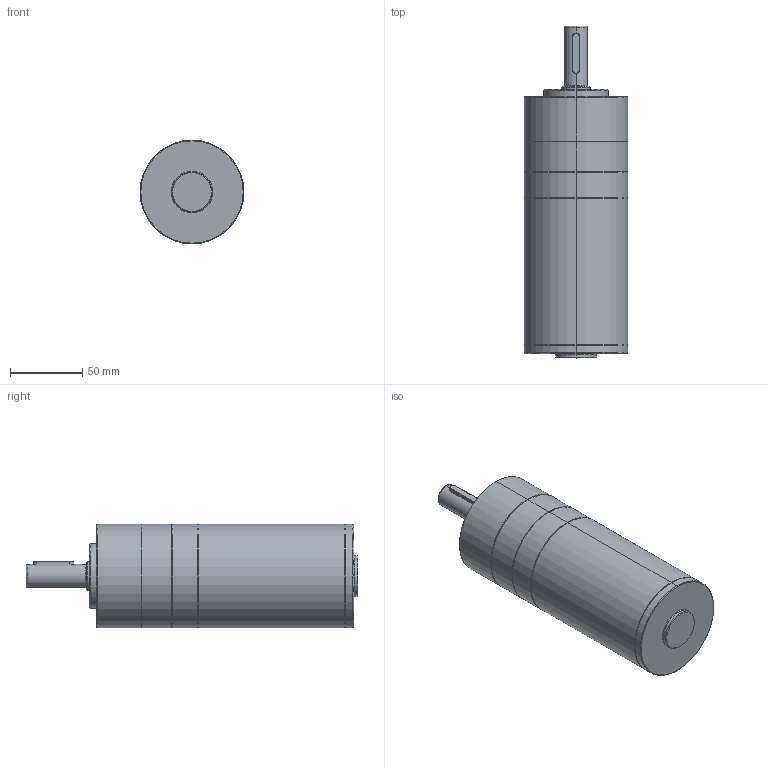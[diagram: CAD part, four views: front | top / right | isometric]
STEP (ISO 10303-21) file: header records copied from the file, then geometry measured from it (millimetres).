
FILE_DESCRIPTION (( 'STEP AP203' ), '1' );
FILE_NAME ('72BLD150W熬厒掀珨撰淕儂.STEP', '2021-07-16T04:52:00', ( '' ), ( '' ), 'SwSTEP 2.0', 'SolidWorks 2021', '' );
FILE_SCHEMA (( 'CONFIG_CONTROL_DESIGN' ));
Length unit declared in the file: millimetre
Products named in the file (3): 72PN珨撰; 72BLD150W熬厒掀珨撰淕儂; 72酗
Assembly tree (2 placements, depth 2):
  72BLD150W熬厒掀珨撰淕儂
    72PN珨撰
    72酗
Bounding box: 72 x 230.5 x 72 mm (x, y, z)
Volume: 733554.4 mm3; surface area: 63103.1 mm2
Topology: 2 solids, 2 shells, 162 faces, 353 edges, 209 vertices
Faces by surface type: cylinder 52, plane 50, cone 38, bspline 14, torus 8
Entity records: 5016 total; most frequent: CARTESIAN_POINT 1203, DIRECTION 787, ORIENTED_EDGE 686, EDGE_CURVE 343, AXIS2_PLACEMENT_3D 309, VERTEX_POINT 209, EDGE_LOOP 186, LINE 169
